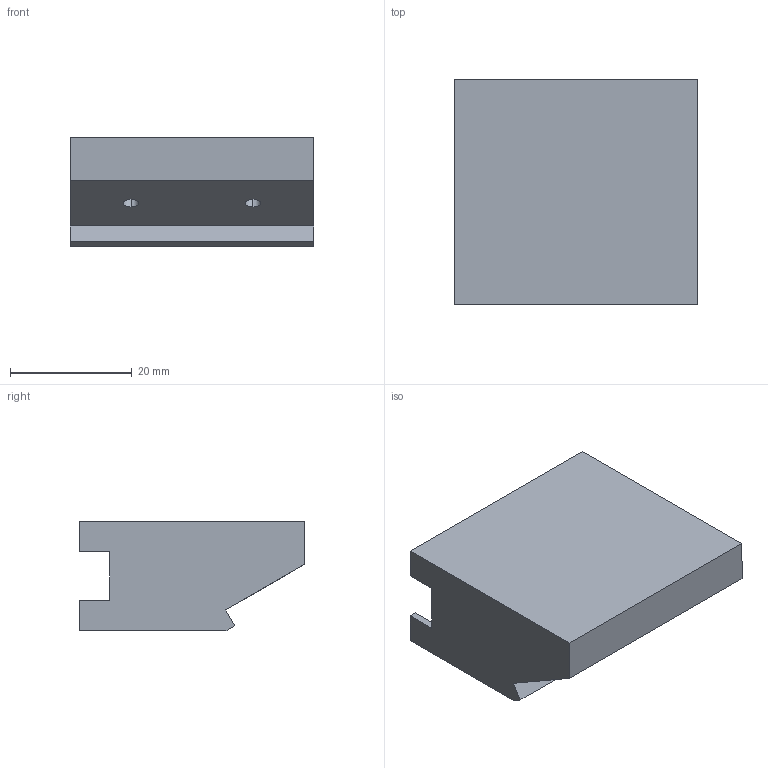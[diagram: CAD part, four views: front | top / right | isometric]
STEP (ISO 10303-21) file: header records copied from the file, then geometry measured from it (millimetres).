
FILE_DESCRIPTION (( 'STEP AP203' ), '1' );
FILE_NAME ('coin fermeture.STEP', '2014-03-20T15:07:57', ( ' ' ), ( ' ' ), 'SwSTEP 2.0', 'SolidWorks 2008', '' );
FILE_SCHEMA (( 'CONFIG_CONTROL_DESIGN' ));
Length unit declared in the file: millimetre
Products named in the file (1): coin fermeture
Bounding box: 40 x 37 x 18 mm (x, y, z)
Volume: 20272.7 mm3; surface area: 6599.5 mm2
Topology: 1 solids, 1 shells, 51 faces, 133 edges, 77 vertices
Faces by surface type: cylinder 20, plane 17, cone 14
Entity records: 1534 total; most frequent: DIRECTION 263, CARTESIAN_POINT 248, ORIENTED_EDGE 238, EDGE_CURVE 119, AXIS2_PLACEMENT_3D 92, VECTOR 79, LINE 79, VERTEX_POINT 77
